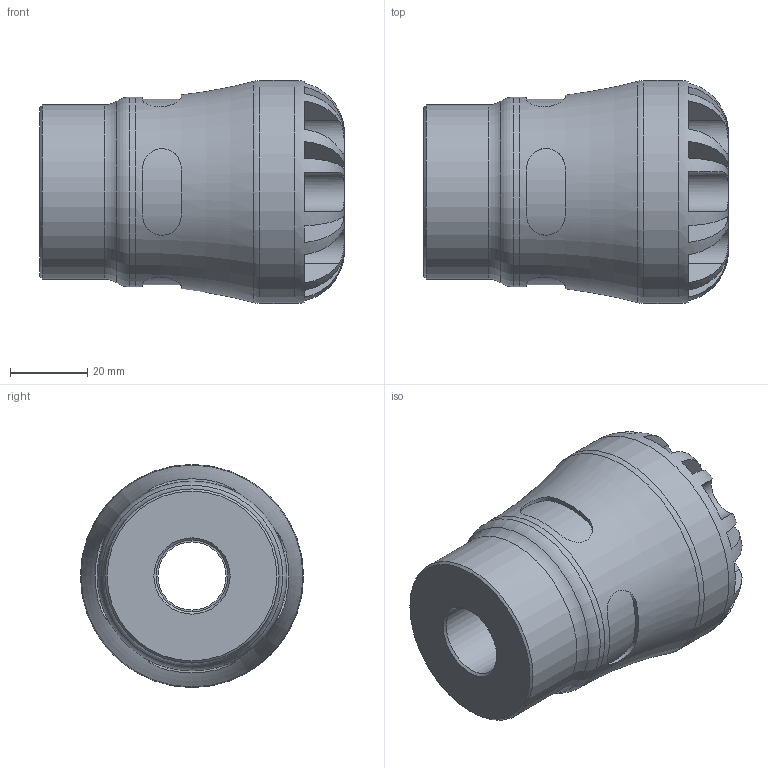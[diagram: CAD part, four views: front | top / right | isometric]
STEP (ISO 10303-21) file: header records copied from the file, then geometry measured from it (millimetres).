
FILE_DESCRIPTION(/* description */ ('PLASSON FEMALE ADAPTOR 1''''CTS x 1''''NPT SERIES 1'),/* implementation_level */ '2;1');
FILE_NAME(/* name */ 'C:\Dropbox\KIMPROJECTS-Inventor 2019\99-16-3568-Processing Inch\ASTM S1 2021\1003Z\1003Z0010010.ipt.stp',/* time_stamp */ '2021-09-02T12:00:30+03:00',/* author */ ('KIM'),/* organization */ (''),/* preprocessor_version */ 'ST-DEVELOPER v17.2',/* originating_system */ 'Autodesk Inventor 2019',/* authorisation */ '');
FILE_SCHEMA (('AUTOMOTIVE_DESIGN { 1 0 10303 214 3 1 1 }'));
Length unit declared in the file: inch
Products named in the file (1): 1003Z0010010
Bounding box: 78.99 x 57.91 x 57.91 mm (x, y, z)
Volume: 111413.1 mm3; surface area: 25101.5 mm2
Topology: 1 solids, 1 shells, 104 faces, 274 edges, 178 vertices
Faces by surface type: plane 61, cylinder 35, torus 5, cone 3
Full cylindrical faces by diameter (mm): 17.699 x1, 18.631 x1, 23.708 x1, 28.45 x1, 45.171 x1, 49.225 x1, 57.912 x1
Entity records: 4212 total; most frequent: CARTESIAN_POINT 1493, ORIENTED_EDGE 548, DIRECTION 540, EDGE_CURVE 274, AXIS2_PLACEMENT_3D 225, VERTEX_POINT 178, CIRCLE 120, EDGE_LOOP 112
